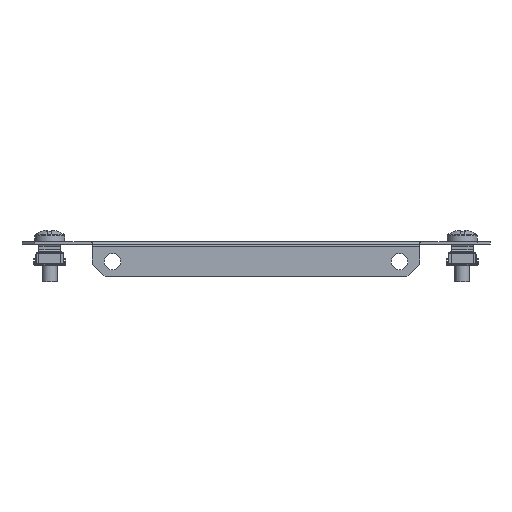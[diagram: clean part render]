
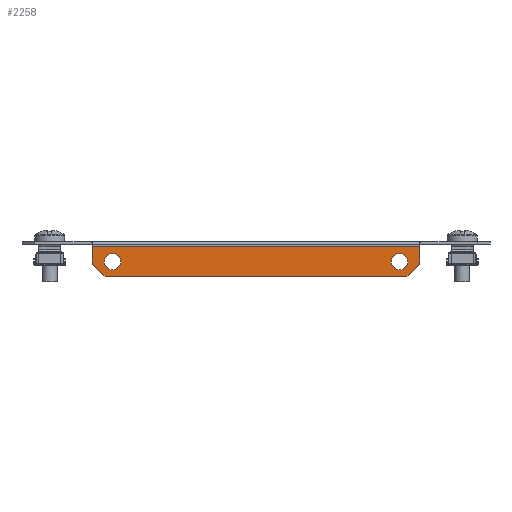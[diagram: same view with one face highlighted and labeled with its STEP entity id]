
A CAD part, front view. The second image highlights one B-rep face of the part: STEP entity #2258.
In plain terms, the highlighted planar face has unit normal (0, -1, 0).
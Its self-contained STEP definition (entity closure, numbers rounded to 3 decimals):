
#312 = VECTOR ( 'NONE', #6103, 1000. ) ;
#342 = EDGE_LOOP ( 'NONE', ( #3182 ) ) ;
#462 = VERTEX_POINT ( 'NONE', #1380 ) ;
#477 = PLANE ( 'NONE',  #1043 ) ;
#484 = VECTOR ( 'NONE', #4949, 1000. ) ;
#505 = CIRCLE ( 'NONE', #5175, 3.25 ) ;
#552 = VERTEX_POINT ( 'NONE', #4276 ) ;
#613 = VECTOR ( 'NONE', #7689, 1000. ) ;
#637 = ORIENTED_EDGE ( 'NONE', *, *, #1129, .T. ) ;
#652 = ORIENTED_EDGE ( 'NONE', *, *, #2466, .T. ) ;
#703 = DIRECTION ( 'NONE',  ( 0., -1., 0. ) ) ;
#795 = DIRECTION ( 'NONE',  ( 0., 1., 0. ) ) ;
#941 = ORIENTED_EDGE ( 'NONE', *, *, #6909, .T. ) ;
#1043 = AXIS2_PLACEMENT_3D ( 'NONE', #6214, #4951, #6376 ) ;
#1062 = DIRECTION ( 'NONE',  ( 0.707, 0., -0.707 ) ) ;
#1129 = EDGE_CURVE ( 'NONE', #462, #5143, #1816, .T. ) ;
#1147 = FACE_BOUND ( 'NONE', #3168, .T. ) ;
#1380 = CARTESIAN_POINT ( 'NONE',  ( -65., -299.5, -2. ) ) ;
#1816 = LINE ( 'NONE', #6952, #484 ) ;
#1864 = FACE_BOUND ( 'NONE', #342, .T. ) ;
#2011 = ORIENTED_EDGE ( 'NONE', *, *, #3366, .T. ) ;
#2258 = ADVANCED_FACE ( 'NONE', ( #1864, #1147, #3779 ), #477, .T. ) ;
#2297 = CARTESIAN_POINT ( 'NONE',  ( -57., -299.5, -4.75 ) ) ;
#2366 = LINE ( 'NONE', #3786, #6908 ) ;
#2466 = EDGE_CURVE ( 'NONE', #552, #4068, #5225, .T. ) ;
#2553 = CARTESIAN_POINT ( 'NONE',  ( 37., -299.5, -37. ) ) ;
#2591 = VERTEX_POINT ( 'NONE', #5611 ) ;
#2876 = ORIENTED_EDGE ( 'NONE', *, *, #8020, .T. ) ;
#2890 = LINE ( 'NONE', #5451, #4443 ) ;
#2900 = CARTESIAN_POINT ( 'NONE',  ( -37., -299.5, -37. ) ) ;
#2919 = VERTEX_POINT ( 'NONE', #3376 ) ;
#2984 = LINE ( 'NONE', #2900, #7846 ) ;
#3168 = EDGE_LOOP ( 'NONE', ( #941 ) ) ;
#3182 = ORIENTED_EDGE ( 'NONE', *, *, #7412, .F. ) ;
#3366 = EDGE_CURVE ( 'NONE', #5143, #2591, #2984, .T. ) ;
#3376 = CARTESIAN_POINT ( 'NONE',  ( 65., -299.5, -2. ) ) ;
#3430 = VERTEX_POINT ( 'NONE', #2297 ) ;
#3779 = FACE_OUTER_BOUND ( 'NONE', #7437, .T. ) ;
#3786 = CARTESIAN_POINT ( 'NONE',  ( 0., -299.5, -14. ) ) ;
#3807 = ORIENTED_EDGE ( 'NONE', *, *, #3949, .T. ) ;
#3883 = DIRECTION ( 'NONE',  ( 0., 0., 1. ) ) ;
#3918 = CARTESIAN_POINT ( 'NONE',  ( 57., -299.5, -8. ) ) ;
#3949 = EDGE_CURVE ( 'NONE', #2919, #462, #2890, .T. ) ;
#4068 = VERTEX_POINT ( 'NONE', #4441 ) ;
#4276 = CARTESIAN_POINT ( 'NONE',  ( 60., -299.5, -14. ) ) ;
#4285 = DIRECTION ( 'NONE',  ( 1., 0., 0. ) ) ;
#4441 = CARTESIAN_POINT ( 'NONE',  ( 65., -299.5, -9. ) ) ;
#4443 = VECTOR ( 'NONE', #7355, 1000. ) ;
#4948 = CARTESIAN_POINT ( 'NONE',  ( 65., -299.5, 0. ) ) ;
#4949 = DIRECTION ( 'NONE',  ( 0., 0., -1. ) ) ;
#4951 = DIRECTION ( 'NONE',  ( 0., -1., 0. ) ) ;
#5143 = VERTEX_POINT ( 'NONE', #6457 ) ;
#5175 = AXIS2_PLACEMENT_3D ( 'NONE', #6525, #795, #3883 ) ;
#5214 = DIRECTION ( 'NONE',  ( 0., 0., 1. ) ) ;
#5225 = LINE ( 'NONE', #2553, #613 ) ;
#5359 = VERTEX_POINT ( 'NONE', #7898 ) ;
#5451 = CARTESIAN_POINT ( 'NONE',  ( 0., -299.5, -2. ) ) ;
#5611 = CARTESIAN_POINT ( 'NONE',  ( -60., -299.5, -14. ) ) ;
#6103 = DIRECTION ( 'NONE',  ( 0., 0., 1. ) ) ;
#6214 = CARTESIAN_POINT ( 'NONE',  ( 0., -299.5, 0. ) ) ;
#6264 = EDGE_CURVE ( 'NONE', #2591, #552, #2366, .T. ) ;
#6376 = DIRECTION ( 'NONE',  ( 0., 0., 1. ) ) ;
#6457 = CARTESIAN_POINT ( 'NONE',  ( -65., -299.5, -9. ) ) ;
#6525 = CARTESIAN_POINT ( 'NONE',  ( -57., -299.5, -8. ) ) ;
#6855 = CIRCLE ( 'NONE', #7910, 3.25 ) ;
#6908 = VECTOR ( 'NONE', #4285, 1000. ) ;
#6909 = EDGE_CURVE ( 'NONE', #3430, #3430, #505, .T. ) ;
#6952 = CARTESIAN_POINT ( 'NONE',  ( -65., -299.5, 0. ) ) ;
#7355 = DIRECTION ( 'NONE',  ( -1., 0., 0. ) ) ;
#7412 = EDGE_CURVE ( 'NONE', #5359, #5359, #6855, .T. ) ;
#7437 = EDGE_LOOP ( 'NONE', ( #7913, #652, #2876, #3807, #637, #2011 ) ) ;
#7534 = LINE ( 'NONE', #4948, #312 ) ;
#7689 = DIRECTION ( 'NONE',  ( 0.707, 0., 0.707 ) ) ;
#7846 = VECTOR ( 'NONE', #1062, 1000. ) ;
#7898 = CARTESIAN_POINT ( 'NONE',  ( 57., -299.5, -4.75 ) ) ;
#7910 = AXIS2_PLACEMENT_3D ( 'NONE', #3918, #703, #5214 ) ;
#7913 = ORIENTED_EDGE ( 'NONE', *, *, #6264, .T. ) ;
#8020 = EDGE_CURVE ( 'NONE', #4068, #2919, #7534, .T. ) ;
